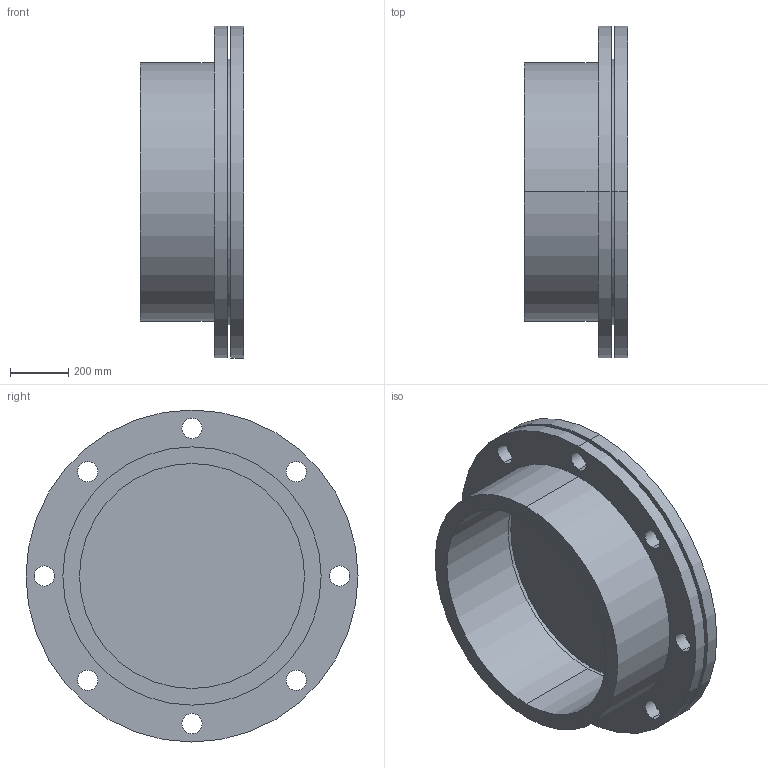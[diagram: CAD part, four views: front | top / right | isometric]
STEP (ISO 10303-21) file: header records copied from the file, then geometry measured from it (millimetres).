
FILE_DESCRIPTION (( 'STEP AP214' ), '1' );
FILE_NAME ('c07_tut03.STEP', '2012-11-08T09:17:44', ( '' ), ( '' ), 'SwSTEP 2.0', 'SolidWorks 2012', '' );
FILE_SCHEMA (( 'AUTOMOTIVE_DESIGN' ));
Length unit declared in the file: inch
Products named in the file (4): cap; seal; base; c07_tut03
Assembly tree (3 placements, depth 2):
  c07_tut03
    base
    seal
    cap
Bounding box: 355.6 x 1143 x 1143 mm (x, y, z)
Volume: 107830372.8 mm3; surface area: 5388074 mm2
Topology: 3 solids, 3 shells, 51 faces, 132 edges, 88 vertices
Faces by surface type: cylinder 44, plane 7
Entity records: 1860 total; most frequent: DIRECTION 334, CARTESIAN_POINT 277, ORIENTED_EDGE 264, AXIS2_PLACEMENT_3D 145, EDGE_CURVE 132, CIRCLE 88, EDGE_LOOP 88, VERTEX_POINT 88
